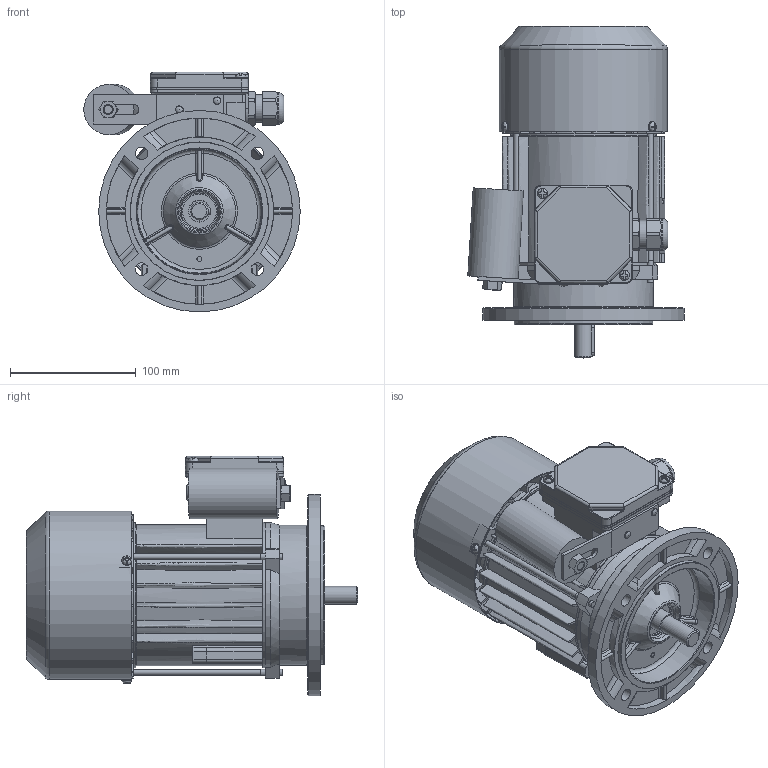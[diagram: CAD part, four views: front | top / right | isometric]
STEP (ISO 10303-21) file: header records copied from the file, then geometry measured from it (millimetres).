
FILE_DESCRIPTION( ( 'Unknown' ), '1' );
FILE_NAME( 'G:/Poczta Tk-1/STP/w.m.71/SEh71/SEKh71-C.stp', 'Unknown', ( 'K. Szlosek' ), ( 'BESEL S.A.' ), 'PSStep 17.0.49', 'Unknown', ' ' );
FILE_SCHEMA( ( 'AUTOMOTIVE_DESIGN { 1 0 10303 214 1 1 1 1 }' ) );
Length unit declared in the file: millimetre
Products named in the file (34): skrznka zaciskowa jednofazowa ; K4-2820 Uszczelka nr 2 Sh71,80; K2-1131 Podstawa skrzynki zaciskowej jednofazowa; K4-2999 Uchwyt kondensatora; Nit 4x12 po skróceniu; nakrętka M8; K4-0898 Tulejka uszczelniająca; Dławnica M20x1,5; K2-0860 Pokrywka skrzynki zaciskowej; Assem1; K3-2975 Osłona przewietrznika Sh71-.B,C; K4-2320 Uszczelka nr 1 Sh71,80; K1-1194 Kadłub z zamkami Sh71-.C; K3-6469 Tarcza łożyskowa P S(E,M)h71-B,C; Wpust A5x5x25; Wkręt samogwintujący M4x8; Nitokołek A 2x6; k3-4489 Wał SKh71 x-2C1; Wkręt samogwintujący M4x16; Kondensator zb 11-16uF Comar; K3-3984 Przewietrznik Sh71; K1-1244 Tarcza kołnierzowa B5 w.m. 71; Łożysko 6203; Śruba ściągająca E_M5x130; Tabliczka znamionowa 32x44
Assembly tree (50 placements, depth 3):
  Assem1
    K3-2975 Osłona przewietrznika Sh71-.B,C
    K4-2320 Uszczelka nr 1 Sh71,80
    K1-1194 Kadłub z zamkami Sh71-.C
    K3-6469 Tarcza łożyskowa P S(E,M)h71-B,C
    Wpust A5x5x25
    Wkręt samogwintujący M4x8  x3
    Nitokołek A 2x6  x2
    k3-4489 Wał SKh71 x-2C1
    Wkręt samogwintujący M4x16  x2
    Kondensator zb 11-16uF Comar
    K3-3984 Przewietrznik Sh71
    K1-1244 Tarcza kołnierzowa B5 w.m. 71
    Łożysko 6203  x2
    Łożysko 6203  x2
    Łożysko 6203  x2
    Łożysko 6203  x2
    Łożysko 6203  x2
    Łożysko 6203  x2
    Łożysko 6203  x2
    Łożysko 6203  x2
    Łożysko 6203  x2
    Łożysko 6203  x2
    Śruba ściągająca E_M5x130  x3
    Tabliczka znamionowa 32x44
    skrznka zaciskowa jednofazowa 
      K4-2820 Uszczelka nr 2 Sh71,80
      K2-1131 Podstawa skrzynki zaciskowej jednofazowa
      K4-2999 Uchwyt kondensatora
      Nit 4x12 po skróceniu  x2
      nakrętka M8
      K4-0898 Tulejka uszczelniająca
      Dławnica M20x1,5
      K2-0860 Pokrywka skrzynki zaciskowej
Bounding box: 171.81 x 263.5 x 190.5 mm (x, y, z)
Volume: 792050.5 mm3; surface area: 475102.8 mm2
Topology: 49 solids, 65 shells, 2374 faces, 6383 edges, 4083 vertices
Faces by surface type: plane 956, cylinder 701, bspline 343, torus 177, cone 155, sphere 42
Full cylindrical faces by diameter (mm): 2 x2, 2.4 x2, 3 x1, 3.7 x7, 3.8 x4, 4 x8, 4.2 x3, 4.3 x2, 4.5 x3, 4.6 x3, 4.8 x4, 5 x7, 5.5 x3, 6 x2, 6.5 x1, 6.647 x1, 7 x1, 8 x10, 10 x6, 14 x1, 15.9 x1, 16.1 x1, 16.5 x1, 17 x4, 17.4 x2, 18.376 x1, 18.38 x1, 20 x1, 22 x2, 22.3 x1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
Entity records: 138234 total; most frequent: CARTESIAN_POINT 68023, ORIENTED_EDGE 11234, DIRECTION 10129, EDGE_CURVE 5617, AXIS2_PLACEMENT_3D 3887, VERTEX_POINT 3745, EDGE_LOOP 2642, LINE 2355
